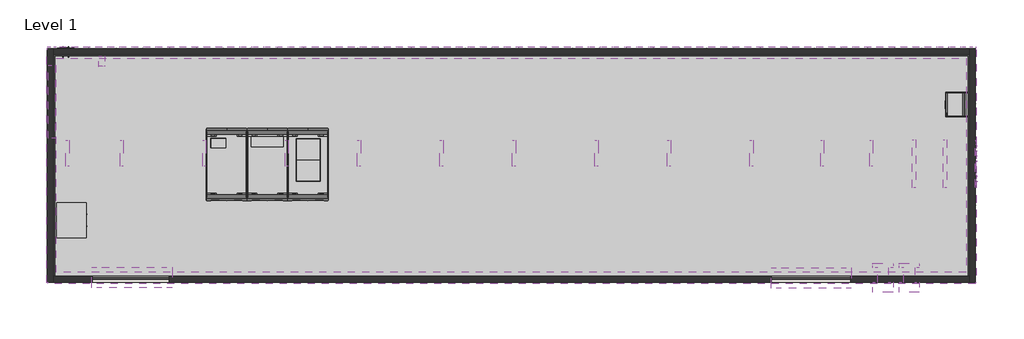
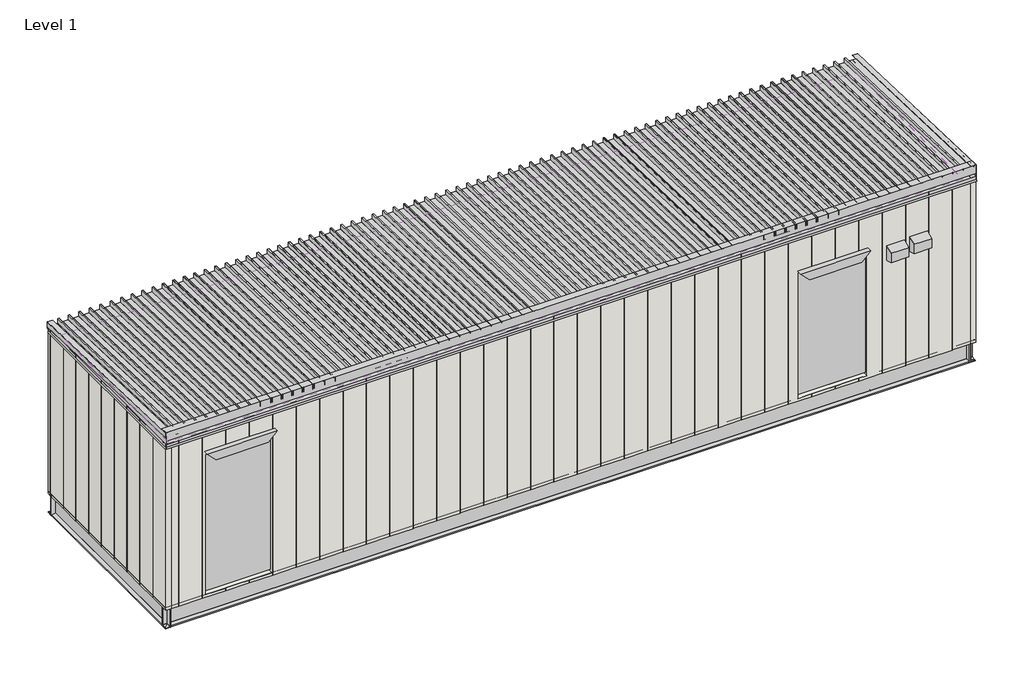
# One storey, incomplete: 32 beams, 14 cable carrier fittings, 14 proxies, 5 walls, 1 covering.
"""IFC4 building model written with IfcOpenShell, lengths in millimetres."""

from ifc_helpers import new_model, si_unit, frame, origin, place, context, project, spatial, polyline, outline, extrude, transform, mapped, element, save
from components import beam_685e67e5, c381x94_16dd5fd5, c381x94_299a31d8, c381x96_93085bd0, c381x96_86510107, c381x96_7eebbe73, foot_stand_and_door_shade_foot_stand_and_door_shade_9e24d134, foot_stand_and_door_shade_foot_stand_and_door_shade_7551d113, i_channel_153x157_1de0439f, i_channel_2c100x6_7_d020ab85, i_channel_2c100x6_7_32814a7a, roof_100kw_roof_100kw_a95ad8ea, roof_100kw_roof_100kw_570b7f92, roof_100kw_roof_100kw_ccd04ebd, electrical_equipment_4dcd70bd, electrical_equipment_6561f704, electrical_equipment_92dd933f, electrical_equipment_2ad6ca1a, electrical_equipment_35aad652, electrical_equipment_d7194751, electrical_equipment_63daee8f, electrical_equipment_b056a7a1, proxy_120v_outlet_120v_outlet_1100b777, base_cover_base_cover_3083e37a, climate_control_climate_control_6d8de276, type_1_617d67d4, hanger_cabletray_hanger_cabletray_bdf1d66f, hanger_cabletray1_hanger_cabletray_2_1b30f011, walls_2_walls_2_f0e25747, walls_3_walls_2_d2d95a10, walls_4_walls_2_c5f77fe5, walls_7_walls_2_cd0bb462

model = new_model("IFC4")

# Units and contexts
model_context = context("Model", 3, world=origin())
ifc_project = project(units=[si_unit("LENGTHUNIT", "METRE", prefix="MILLI")], contexts=[model_context])

# Site, building, storey
site = spatial("IfcSite", under=ifc_project)
building = spatial("IfcBuilding", under=site)
storey = spatial("IfcBuildingStorey", under=building, Name="Level 1", Elevation=0.0)

# Beams
placement = place(None, origin())
beam_shape = beam_685e67e5(model_context)
element("IfcBeam", 1, ObjectType="Inside Insulation config-5 : Inside Insulation config-5", at=placement, inside=storey, context=model_context, shape_type="MappedRepresentation", body=[
    mapped(beam_shape, transform((5653.6195207, 465.3217856, 0.0), x_axis=(1.0, 0.0, 0.0), y_axis=(0.0, 1.0, 0.0), z_axis=(0.0, 0.0, 1.0))),
])
c381x94_shape = c381x94_16dd5fd5(model_context)
element("IfcBeam", 2, ObjectType="M_C-Channel_305x105 : C381x94", at=placement, inside=storey, context=model_context, shape_type="MappedRepresentation", body=[
    mapped(c381x94_shape, transform((14806.9716396, 3824.2548204, 190.5), x_axis=(-1.0, 0.0, 0.0), y_axis=(0.0, -1.0, 0.0), z_axis=(0.0, 0.0, 1.0))),
])
c381x94_2_shape = c381x94_299a31d8(model_context)
element("IfcBeam", 3, ObjectType="M_C-Channel_305x105 : C381x94", at=placement, inside=storey, context=model_context, shape_type="MappedRepresentation", body=[
    mapped(c381x94_2_shape, transform((14806.9716396, 548.7448234, 190.5), x_axis=(-1.0, 0.0, 0.0), y_axis=(0.0, -1.0, 0.0), z_axis=(0.0, 0.0, 1.0))),
])
c381x96_shape = c381x96_93085bd0(model_context)
element("IfcBeam", 4, ObjectType="M_C-Channel_305x105 : C381x96", at=placement, inside=storey, context=model_context, shape_type="MappedRepresentation", body=[
    mapped(c381x96_shape, transform((6084.5986421, 3985.046086, 190.5), x_axis=(0.0, -1.0, 0.0), y_axis=(1.0, 0.0, 0.0), z_axis=(0.0, 0.0, 1.0))),
])
c381x96_2_shape = c381x96_86510107(model_context)
element("IfcBeam", 5, ObjectType="M_C-Channel_305x105 : C381x96", at=placement, inside=storey, context=model_context, shape_type="MappedRepresentation", body=[
    mapped(c381x96_2_shape, transform((19638.610639, 3985.046086, 190.5), x_axis=(0.0, -1.0, 0.0), y_axis=(1.0, 0.0, 0.0), z_axis=(0.0, 0.0, 1.0))),
])
c381x96_3_shape = c381x96_7eebbe73(model_context)
element("IfcBeam", 6, ObjectType="M_C-Channel_305x105 : C381x96", at=placement, inside=storey, context=model_context, shape_type="MappedRepresentation", body=[
    mapped(c381x96_3_shape, transform((7732.608639, 3985.046086, 190.5), x_axis=(0.0, -1.0, 0.0), y_axis=(1.0, 0.0, 0.0), z_axis=(0.0, 0.0, 1.0))),
])
element("IfcBeam", 7, ObjectType="M_C-Channel_305x105 : C381x96", at=placement, inside=storey, context=model_context, shape_type="MappedRepresentation", body=[
    mapped(c381x96_3_shape, transform((12832.608639, 3985.046086, 190.5), x_axis=(0.0, -1.0, 0.0), y_axis=(1.0, 0.0, 0.0), z_axis=(0.0, 0.0, 1.0))),
])
element("IfcBeam", 8, ObjectType="M_C-Channel_305x105 : C381x96", at=placement, inside=storey, context=model_context, shape_type="MappedRepresentation", body=[
    mapped(c381x96_3_shape, transform((17932.608639, 3985.046086, 190.5), x_axis=(0.0, -1.0, 0.0), y_axis=(1.0, 0.0, 0.0), z_axis=(0.0, 0.0, 1.0))),
])
foot_stand_and_door_shade_foot_stand_and_door_shade_shape = foot_stand_and_door_shade_foot_stand_and_door_shade_9e24d134(model_context)
element("IfcBeam", 9, ObjectType="Foot Stand and Door shade : Foot Stand and Door shade", at=placement, inside=storey, context=model_context, shape_type="MappedRepresentation", body=[
    mapped(foot_stand_and_door_shade_foot_stand_and_door_shade_shape, transform((6600.901081, 120.8846345, 0.0), x_axis=(1.0, 0.0, 0.0), y_axis=(0.0, 1.0, 0.0), z_axis=(0.0, 0.0, 1.0))),
])
foot_stand_and_door_shade_foot_stand_and_door_shade_2_shape = foot_stand_and_door_shade_foot_stand_and_door_shade_7551d113(model_context)
element("IfcBeam", 10, ObjectType="Foot Stand and Door shade : Foot Stand and Door shade", at=placement, inside=storey, context=model_context, shape_type="MappedRepresentation", body=[
    mapped(foot_stand_and_door_shade_foot_stand_and_door_shade_2_shape, transform((16642.4999477, 110.8846345, -17.5), x_axis=(1.0, 0.0, 0.0), y_axis=(0.0, 1.0, 0.0), z_axis=(0.0, 0.0, 1.0))),
])
i_channel_153x157_shape = i_channel_153x157_1de0439f(model_context)
element("IfcBeam", 11, ObjectType="I Channel : 153x157", at=placement, inside=storey, context=model_context, shape_type="MappedRepresentation", body=[
    mapped(i_channel_153x157_shape, transform((9239.0399071, 2184.3638219, 202.5), x_axis=(1.0, 0.0, 0.0), y_axis=(0.0, 1.0, 0.0), z_axis=(0.0, 0.0, 1.0))),
])
i_channel_2c100x6_7_shape = i_channel_2c100x6_7_d020ab85(model_context)
element("IfcBeam", 12, ObjectType="I Channel : 2C100X6.7", at=placement, inside=storey, context=model_context, shape_type="MappedRepresentation", body=[
    mapped(i_channel_2c100x6_7_shape, transform((8362.9196405, 3129.3607292, 332.5), x_axis=(0.0, -1.0, 0.0), y_axis=(1.0, 0.0, 0.0), z_axis=(0.0, 0.0, 1.0))),
])
element("IfcBeam", 13, ObjectType="I Channel : 2C100X6.7", at=placement, inside=storey, context=model_context, shape_type="MappedRepresentation", body=[
    mapped(i_channel_2c100x6_7_shape, transform((6549.7176405, 3129.3607292, 332.5), x_axis=(0.0, -1.0, 0.0), y_axis=(1.0, 0.0, 0.0), z_axis=(0.0, 0.0, 1.0))),
])
i_channel_2c100x6_7_2_shape = i_channel_2c100x6_7_32814a7a(model_context)
element("IfcBeam", 14, ObjectType="I Channel : 2C100X6.7", at=placement, inside=storey, context=model_context, shape_type="MappedRepresentation", body=[
    mapped(i_channel_2c100x6_7_2_shape, transform((19162.9196405, 3123.0107292, 332.5), x_axis=(0.0, -1.0, 0.0), y_axis=(1.0, 0.0, 0.0), z_axis=(0.0, 0.0, 1.0))),
])
element("IfcBeam", 15, ObjectType="I Channel : 2C100X6.7", at=placement, inside=storey, context=model_context, shape_type="MappedRepresentation", body=[
    mapped(i_channel_2c100x6_7_2_shape, transform((18562.9196405, 3123.0107292, 332.5), x_axis=(0.0, -1.0, 0.0), y_axis=(1.0, 0.0, 0.0), z_axis=(0.0, 0.0, 1.0))),
])
element("IfcBeam", 16, ObjectType="I Channel : 2C100X6.7", at=placement, inside=storey, context=model_context, shape_type="MappedRepresentation", body=[
    mapped(i_channel_2c100x6_7_2_shape, transform((17362.9196405, 3123.0107292, 332.5), x_axis=(0.0, -1.0, 0.0), y_axis=(1.0, 0.0, 0.0), z_axis=(0.0, 0.0, 1.0))),
])
element("IfcBeam", 17, ObjectType="I Channel : 2C100X6.7", at=placement, inside=storey, context=model_context, shape_type="MappedRepresentation", body=[
    mapped(i_channel_2c100x6_7_2_shape, transform((16762.9196405, 3123.0107292, 332.5), x_axis=(0.0, -1.0, 0.0), y_axis=(1.0, 0.0, 0.0), z_axis=(0.0, 0.0, 1.0))),
])
element("IfcBeam", 18, ObjectType="I Channel : 2C100X6.7", at=placement, inside=storey, context=model_context, shape_type="MappedRepresentation", body=[
    mapped(i_channel_2c100x6_7_2_shape, transform((16162.9196405, 3123.0107292, 332.5), x_axis=(0.0, -1.0, 0.0), y_axis=(1.0, 0.0, 0.0), z_axis=(0.0, 0.0, 1.0))),
])
element("IfcBeam", 19, ObjectType="I Channel : 2C100X6.7", at=placement, inside=storey, context=model_context, shape_type="MappedRepresentation", body=[
    mapped(i_channel_2c100x6_7_2_shape, transform((15562.9196405, 3123.0107292, 332.5), x_axis=(0.0, -1.0, 0.0), y_axis=(1.0, 0.0, 0.0), z_axis=(0.0, 0.0, 1.0))),
])
element("IfcBeam", 20, ObjectType="I Channel : 2C100X6.7", at=placement, inside=storey, context=model_context, shape_type="MappedRepresentation", body=[
    mapped(i_channel_2c100x6_7_2_shape, transform((14962.9196405, 3123.0107292, 332.5), x_axis=(0.0, -1.0, 0.0), y_axis=(1.0, 0.0, 0.0), z_axis=(0.0, 0.0, 1.0))),
])
element("IfcBeam", 21, ObjectType="I Channel : 2C100X6.7", at=placement, inside=storey, context=model_context, shape_type="MappedRepresentation", body=[
    mapped(i_channel_2c100x6_7_2_shape, transform((14362.9196405, 3123.0107292, 332.5), x_axis=(0.0, -1.0, 0.0), y_axis=(1.0, 0.0, 0.0), z_axis=(0.0, 0.0, 1.0))),
])
element("IfcBeam", 22, ObjectType="I Channel : 2C100X6.7", at=placement, inside=storey, context=model_context, shape_type="MappedRepresentation", body=[
    mapped(i_channel_2c100x6_7_2_shape, transform((13762.9196405, 3123.0107292, 332.5), x_axis=(0.0, -1.0, 0.0), y_axis=(1.0, 0.0, 0.0), z_axis=(0.0, 0.0, 1.0))),
])
element("IfcBeam", 23, ObjectType="I Channel : 2C100X6.7", at=placement, inside=storey, context=model_context, shape_type="MappedRepresentation", body=[
    mapped(i_channel_2c100x6_7_2_shape, transform((13162.9196405, 3123.0107292, 332.5), x_axis=(0.0, -1.0, 0.0), y_axis=(1.0, 0.0, 0.0), z_axis=(0.0, 0.0, 1.0))),
])
element("IfcBeam", 24, ObjectType="I Channel : 2C100X6.7", at=placement, inside=storey, context=model_context, shape_type="MappedRepresentation", body=[
    mapped(i_channel_2c100x6_7_2_shape, transform((12562.9196405, 3123.0107292, 332.5), x_axis=(0.0, -1.0, 0.0), y_axis=(1.0, 0.0, 0.0), z_axis=(0.0, 0.0, 1.0))),
])
element("IfcBeam", 25, ObjectType="I Channel : 2C100X6.7", at=placement, inside=storey, context=model_context, shape_type="MappedRepresentation", body=[
    mapped(i_channel_2c100x6_7_2_shape, transform((11962.9196405, 3123.0107292, 332.5), x_axis=(0.0, -1.0, 0.0), y_axis=(1.0, 0.0, 0.0), z_axis=(0.0, 0.0, 1.0))),
])
element("IfcBeam", 26, ObjectType="I Channel : 2C100X6.7", at=placement, inside=storey, context=model_context, shape_type="MappedRepresentation", body=[
    mapped(i_channel_2c100x6_7_2_shape, transform((11362.9196405, 3123.0107292, 332.5), x_axis=(0.0, -1.0, 0.0), y_axis=(1.0, 0.0, 0.0), z_axis=(0.0, 0.0, 1.0))),
])
element("IfcBeam", 27, ObjectType="I Channel : 2C100X6.7", at=placement, inside=storey, context=model_context, shape_type="MappedRepresentation", body=[
    mapped(i_channel_2c100x6_7_2_shape, transform((10762.9196405, 3123.0107292, 332.5), x_axis=(0.0, -1.0, 0.0), y_axis=(1.0, 0.0, 0.0), z_axis=(0.0, 0.0, 1.0))),
])
element("IfcBeam", 28, ObjectType="I Channel : 2C100X6.7", at=placement, inside=storey, context=model_context, shape_type="MappedRepresentation", body=[
    mapped(i_channel_2c100x6_7_2_shape, transform((10162.9196405, 3123.0107292, 332.5), x_axis=(0.0, -1.0, 0.0), y_axis=(1.0, 0.0, 0.0), z_axis=(0.0, 0.0, 1.0))),
])
element("IfcBeam", 29, ObjectType="I Channel : 2C100X6.7", at=placement, inside=storey, context=model_context, shape_type="MappedRepresentation", body=[
    mapped(i_channel_2c100x6_7_2_shape, transform((9562.9196405, 3123.0107292, 332.5), x_axis=(0.0, -1.0, 0.0), y_axis=(1.0, 0.0, 0.0), z_axis=(0.0, 0.0, 1.0))),
])
element("IfcBeam", 30, ObjectType="I Channel : 2C100X6.7", at=placement, inside=storey, context=model_context, shape_type="MappedRepresentation", body=[
    mapped(i_channel_2c100x6_7_2_shape, transform((8962.9196405, 3123.0107292, 332.5), x_axis=(0.0, -1.0, 0.0), y_axis=(1.0, 0.0, 0.0), z_axis=(0.0, 0.0, 1.0))),
])
element("IfcBeam", 31, ObjectType="I Channel : 2C100X6.7", at=placement, inside=storey, context=model_context, shape_type="MappedRepresentation", body=[
    mapped(i_channel_2c100x6_7_2_shape, transform((7149.7176405, 3123.0107292, 332.5), x_axis=(0.0, -1.0, 0.0), y_axis=(1.0, 0.0, 0.0), z_axis=(0.0, 0.0, 1.0))),
])
roof_100kw_roof_100kw_shape = roof_100kw_roof_100kw_a95ad8ea(model_context)
roof_100kw_roof_100kw_2_shape = roof_100kw_roof_100kw_570b7f92(model_context)
roof_100kw_roof_100kw_3_shape = roof_100kw_roof_100kw_ccd04ebd(model_context)
element("IfcBeam", 32, ObjectType="Roof_100kW : Roof_100kW", at=placement, inside=storey, context=model_context, shape_type="MappedRepresentation", body=[
    mapped(roof_100kw_roof_100kw_shape, transform((12866.921139, 462.8998207, 0.0), x_axis=(1.0, 0.0, 0.0), y_axis=(0.0, 1.0, 0.0), z_axis=(0.0, 0.0, 1.0))),
    mapped(roof_100kw_roof_100kw_2_shape, transform((12866.921139, 462.8998207, 0.0), x_axis=(1.0, 0.0, 0.0), y_axis=(0.0, 1.0, 0.0), z_axis=(0.0, 0.0, 1.0))),
    mapped(roof_100kw_roof_100kw_3_shape, transform((12866.921139, 462.8998207, 0.0), x_axis=(1.0, 0.0, 0.0), y_axis=(0.0, 1.0, 0.0), z_axis=(0.0, 0.0, 1.0))),
])

# Proxies
electrical_equipment_shape = electrical_equipment_4dcd70bd(model_context)
element("IfcBuildingElementProxy", 33, Name="Distribution_Sockets_2 : Distribution_Sockets_2", ObjectType="Distribution_Sockets_2 : Distribution_Sockets_2", at=placement, inside=storey, context=model_context, shape_type="MappedRepresentation", body=[
    mapped(electrical_equipment_shape, transform((19663.9536405, 2166.5913057, 3010.0080032), x_axis=(1.0, 0.0, 0.0), y_axis=(0.0, 1.0, 0.0), z_axis=(0.0, 0.0, 1.0))),
])
electrical_equipment_2_shape = electrical_equipment_6561f704(model_context)
electrical_equipment_3_shape = electrical_equipment_92dd933f(model_context)
electrical_equipment_4_shape = electrical_equipment_2ad6ca1a(model_context)
element("IfcBuildingElementProxy", 34, Name="TRF2 - 480V-208Vor 120V_ Step_down_transformer_BIM_Model : TRF2 - 480V-208Vor 120V_ Step_down_transformer_BIM_Model", ObjectType="TRF2 - 480V-208Vor 120V_ Step_down_transformer_BIM_Model : TRF2 - 480V-208Vor 120V_ Step_down_transformer_BIM_Model", at=placement, inside=storey, context=model_context, shape_type="MappedRepresentation", body=[
    mapped(electrical_equipment_2_shape, transform((6361.8224209, 1365.7230792, 384.1500006), x_axis=(0.0, 1.0, 0.0), y_axis=(-1.0, 0.0, 0.0), z_axis=(0.0, 0.0, 1.0))),
    mapped(electrical_equipment_3_shape, transform((6361.8224209, 1365.7230792, 384.1500006), x_axis=(0.0, 1.0, 0.0), y_axis=(-1.0, 0.0, 0.0), z_axis=(0.0, 0.0, 1.0))),
    mapped(electrical_equipment_4_shape, transform((6361.8224209, 1365.7230792, 384.1500006), x_axis=(0.0, 1.0, 0.0), y_axis=(-1.0, 0.0, 0.0), z_axis=(0.0, 0.0, 1.0))),
])
electrical_equipment_5_shape = electrical_equipment_35aad652(model_context)
element("IfcBuildingElementProxy", 35, Name="Distribution_Socket_Single_rotated : Distribution_Socket_Single_rotated", ObjectType="Distribution_Socket_Single_rotated : Distribution_Socket_Single_rotated", at=placement, inside=storey, context=model_context, shape_type="MappedRepresentation", body=[
    mapped(electrical_equipment_5_shape, transform((6277.2181267, 3854.838235, 1291.0119111), x_axis=(1.0, 0.0, 0.0), y_axis=(0.0, 1.0, 0.0), z_axis=(0.0, 0.0, 1.0))),
])
element("IfcBuildingElementProxy", 36, Name="Distribution_Socket_Single_rotated : Distribution_Socket_Single_rotated", ObjectType="Distribution_Socket_Single_rotated : Distribution_Socket_Single_rotated", at=placement, inside=storey, context=model_context, shape_type="MappedRepresentation", body=[
    mapped(electrical_equipment_5_shape, transform((6277.2181267, 3854.838235, 1041.5044755), x_axis=(1.0, 0.0, 0.0), y_axis=(0.0, 1.0, 0.0), z_axis=(0.0, 0.0, 1.0))),
])
element("IfcBuildingElementProxy", 37, Name="Distribution_Socket_Single_rotated : Distribution_Socket_Single_rotated", ObjectType="Distribution_Socket_Single_rotated : Distribution_Socket_Single_rotated", at=placement, inside=storey, context=model_context, shape_type="MappedRepresentation", body=[
    mapped(electrical_equipment_5_shape, transform((6277.2181267, 3854.838235, 790.7156565), x_axis=(1.0, 0.0, 0.0), y_axis=(0.0, 1.0, 0.0), z_axis=(0.0, 0.0, 1.0))),
])
element("IfcBuildingElementProxy", 38, Name="Distribution_Socket_Single_rotated : Distribution_Socket_Single_rotated", ObjectType="Distribution_Socket_Single_rotated : Distribution_Socket_Single_rotated", at=placement, inside=storey, context=model_context, shape_type="MappedRepresentation", body=[
    mapped(electrical_equipment_5_shape, transform((6277.2181267, 3854.838235, 541.120972), x_axis=(1.0, 0.0, 0.0), y_axis=(0.0, 1.0, 0.0), z_axis=(0.0, 0.0, 1.0))),
])
electrical_equipment_6_shape = electrical_equipment_d7194751(model_context)
element("IfcBuildingElementProxy", 39, Name="Symmetra_PX_Battery_96_100_160kW_Schneider_Electric_BIM_Model : SYCFXR9-9 - Symmetra PX Battery frame with 9 Battery Modules", ObjectType="Symmetra_PX_Battery_96_100_160kW_Schneider_Electric_BIM_Model : SYCFXR9-9 - Symmetra PX Battery frame with 9 Battery Modules", at=placement, inside=storey, context=model_context, shape_type="MappedRepresentation", body=[
    mapped(electrical_equipment_6_shape, transform((8656.3645516, 2188.9905067, 387.0), x_axis=(1.0, 0.0, 0.0), y_axis=(0.0, 1.0, 0.0), z_axis=(0.0, 0.0, 1.0))),
])
electrical_equipment_7_shape = electrical_equipment_63daee8f(model_context)
element("IfcBuildingElementProxy", 40, Name="Modular_PDU_100kW_600_480_208V_MBP_w_XFMR_Schneider_Electric_BIM_Model : PDPM100G6F-M 100kVA Modular Power Distribution Unit, Isolation Transformer, 480-208V, 72 Pole, MBP, 1 Subfeed", ObjectType="Modular_PDU_100kW_600_480_208V_MBP_w_XFMR_Schneider_Electric_BIM_Model : PDPM100G6F-M 100kVA Modular Power Distribution Unit, Isolation Transformer, 480-208V, 72 Pole, MBP, 1 Subfeed", at=placement, inside=storey, context=model_context, shape_type="MappedRepresentation", body=[
    mapped(electrical_equipment_7_shape, transform((9856.3645516, 2188.9905067, 387.0), x_axis=(1.0, 0.0, 0.0), y_axis=(0.0, 1.0, 0.0), z_axis=(0.0, 0.0, 1.0))),
])
electrical_equipment_8_shape = electrical_equipment_b056a7a1(model_context)
element("IfcBuildingElementProxy", 41, Name="UPS_Symmetra_PX_100_Schneider_Electric_100kVA_BIM_Model : SY100K100F", ObjectType="UPS_Symmetra_PX_100_Schneider_Electric_100kVA_BIM_Model : SY100K100F", at=placement, inside=storey, context=model_context, shape_type="MappedRepresentation", body=[
    mapped(electrical_equipment_8_shape, transform((9256.3645516, 2188.9905067, 387.0), x_axis=(1.0, 0.0, 0.0), y_axis=(0.0, 1.0, 0.0), z_axis=(0.0, 0.0, 1.0))),
])
proxy_120v_outlet_120v_outlet_shape = proxy_120v_outlet_120v_outlet_1100b777(model_context)
element("IfcBuildingElementProxy", 42, Name="120V Outlet : 120V Outlet", ObjectType="120V Outlet : 120V Outlet", at=placement, inside=storey, context=model_context, shape_type="MappedRepresentation", body=[
    mapped(proxy_120v_outlet_120v_outlet_shape, transform((6809.7176405, 3816.9110044, 4.9244391), x_axis=(-1.0, 0.0, 0.0), y_axis=(0.0, -1.0, 0.0), z_axis=(0.0, 0.0, 1.0))),
])
base_cover_base_cover_shape = base_cover_base_cover_3083e37a(model_context)
element("IfcBuildingElementProxy", 43, Name="Base_cover : Base_cover", ObjectType="Base_cover : Base_cover", at=placement, inside=storey, context=model_context, shape_type="MappedRepresentation", body=[
    mapped(base_cover_base_cover_shape, transform((12862.9896405, 2184.6358219, 0.0), x_axis=(1.0, 0.0, 0.0), y_axis=(0.0, 1.0, 0.0), z_axis=(0.0, 0.0, 1.0))),
])
climate_control_climate_control_shape = climate_control_climate_control_6d8de276(model_context)
element("IfcBuildingElementProxy", 44, Name="Climate Control : Climate Control", ObjectType="Climate Control : Climate Control", at=placement, inside=storey, context=model_context, shape_type="MappedRepresentation", body=[
    mapped(climate_control_climate_control_shape, transform((18894.8150458, 526.5092019, 2362.0), x_axis=(-1.0000000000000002, 0.0, 0.0), y_axis=(0.0, -1.0000000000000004, 0.0), z_axis=(0.0, 0.0, 1.0000000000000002))),
])
element("IfcBuildingElementProxy", 45, Name="Climate Control : Climate Control", ObjectType="Climate Control : Climate Control", at=placement, inside=storey, context=model_context, shape_type="MappedRepresentation", body=[
    mapped(climate_control_climate_control_shape, transform((18505.1304917, 526.5092019, 2336.5581161), x_axis=(-1.0000000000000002, 0.0, 0.0), y_axis=(0.0, -1.0000000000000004, 0.0), z_axis=(0.0, 0.0, 1.0000000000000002))),
])
type_1_shape = type_1_617d67d4(model_context)
element("IfcBuildingElementProxy", 46, Name="UE001 - Carel_Humidifier_Wallmount_BIM_Model : Type 1", ObjectType="UE001 - Carel_Humidifier_Wallmount_BIM_Model : Type 1", at=placement, inside=storey, context=model_context, shape_type="MappedRepresentation", body=[
    mapped(type_1_shape, transform((19635.4536405, 3076.7537241, 495.0), x_axis=(0.0, 1.0, 0.0), y_axis=(-1.0, 0.0, 0.0), z_axis=(0.0, 0.0, 1.0))),
])

# Cable carrier fittings
hanger_cabletray_hanger_cabletray_shape = hanger_cabletray_hanger_cabletray_bdf1d66f(model_context)
element("IfcCableCarrierFitting", 47, ObjectType="Hanger_CableTray : Hanger_CableTray", at=placement, inside=storey, context=model_context, shape_type="MappedRepresentation", body=[
    mapped(hanger_cabletray_hanger_cabletray_shape, transform((19272.920734, 2204.5328469, 2994.0), x_axis=(0.0, 1.0, 0.0), y_axis=(-1.0, 0.0, 0.0), z_axis=(0.0, 0.0, 1.0))),
])
element("IfcCableCarrierFitting", 48, ObjectType="Hanger_CableTray : Hanger_CableTray", at=placement, inside=storey, context=model_context, shape_type="MappedRepresentation", body=[
    mapped(hanger_cabletray_hanger_cabletray_shape, transform((18812.920734, 2204.5328469, 2994.0), x_axis=(0.0, 1.0, 0.0), y_axis=(-1.0, 0.0, 0.0), z_axis=(0.0, 0.0, 1.0))),
])
hanger_cabletray1_hanger_cabletray_2_shape = hanger_cabletray1_hanger_cabletray_2_1b30f011(model_context)
element("IfcCableCarrierFitting", 49, ObjectType="Hanger_CableTray1 : Hanger_CableTray 2", at=placement, inside=storey, context=model_context, shape_type="MappedRepresentation", body=[
    mapped(hanger_cabletray1_hanger_cabletray_2_shape, transform((6303.563234, 2521.5978676, 2854.0), x_axis=(0.0, 1.0, 0.0), y_axis=(-1.0, 0.0, 0.0), z_axis=(0.0, 0.0, 1.0))),
])
element("IfcCableCarrierFitting", 50, ObjectType="Hanger_CableTray1 : Hanger_CableTray 2", at=placement, inside=storey, context=model_context, shape_type="MappedRepresentation", body=[
    mapped(hanger_cabletray1_hanger_cabletray_2_shape, transform((7105.250734, 2521.5978676, 2854.0), x_axis=(0.0, 1.0, 0.0), y_axis=(-1.0, 0.0, 0.0), z_axis=(0.0, 0.0, 1.0))),
])
element("IfcCableCarrierFitting", 51, ObjectType="Hanger_CableTray1 : Hanger_CableTray 2", at=placement, inside=storey, context=model_context, shape_type="MappedRepresentation", body=[
    mapped(hanger_cabletray1_hanger_cabletray_2_shape, transform((8324.450734, 2521.5978676, 2854.0), x_axis=(0.0, 1.0, 0.0), y_axis=(-1.0, 0.0, 0.0), z_axis=(0.0, 0.0, 1.0))),
])
element("IfcCableCarrierFitting", 52, ObjectType="Hanger_CableTray1 : Hanger_CableTray 2", at=placement, inside=storey, context=model_context, shape_type="MappedRepresentation", body=[
    mapped(hanger_cabletray1_hanger_cabletray_2_shape, transform((9543.650734, 2521.5978676, 2854.0), x_axis=(0.0, 1.0, 0.0), y_axis=(-1.0, 0.0, 0.0), z_axis=(0.0, 0.0, 1.0))),
])
element("IfcCableCarrierFitting", 53, ObjectType="Hanger_CableTray1 : Hanger_CableTray 2", at=placement, inside=storey, context=model_context, shape_type="MappedRepresentation", body=[
    mapped(hanger_cabletray1_hanger_cabletray_2_shape, transform((10614.3507369, 2521.5978676, 2854.0), x_axis=(0.0, 1.0, 0.0), y_axis=(-1.0, 0.0, 0.0), z_axis=(0.0, 0.0, 1.0))),
])
element("IfcCableCarrierFitting", 54, ObjectType="Hanger_CableTray1 : Hanger_CableTray 2", at=placement, inside=storey, context=model_context, shape_type="MappedRepresentation", body=[
    mapped(hanger_cabletray1_hanger_cabletray_2_shape, transform((11833.5507369, 2521.5978676, 2854.0), x_axis=(0.0, 1.0, 0.0), y_axis=(-1.0, 0.0, 0.0), z_axis=(0.0, 0.0, 1.0))),
])
element("IfcCableCarrierFitting", 55, ObjectType="Hanger_CableTray1 : Hanger_CableTray 2", at=placement, inside=storey, context=model_context, shape_type="MappedRepresentation", body=[
    mapped(hanger_cabletray1_hanger_cabletray_2_shape, transform((12904.2507398, 2521.5978676, 2854.0), x_axis=(0.0, 1.0, 0.0), y_axis=(-1.0, 0.0, 0.0), z_axis=(0.0, 0.0, 1.0))),
])
element("IfcCableCarrierFitting", 56, ObjectType="Hanger_CableTray1 : Hanger_CableTray 2", at=placement, inside=storey, context=model_context, shape_type="MappedRepresentation", body=[
    mapped(hanger_cabletray1_hanger_cabletray_2_shape, transform((14123.4507398, 2521.5978676, 2854.0), x_axis=(0.0, 1.0, 0.0), y_axis=(-1.0, 0.0, 0.0), z_axis=(0.0, 0.0, 1.0))),
])
element("IfcCableCarrierFitting", 57, ObjectType="Hanger_CableTray1 : Hanger_CableTray 2", at=placement, inside=storey, context=model_context, shape_type="MappedRepresentation", body=[
    mapped(hanger_cabletray1_hanger_cabletray_2_shape, transform((15194.1507428, 2521.5978676, 2854.0), x_axis=(0.0, 1.0, 0.0), y_axis=(-1.0, 0.0, 0.0), z_axis=(0.0, 0.0, 1.0))),
])
element("IfcCableCarrierFitting", 58, ObjectType="Hanger_CableTray1 : Hanger_CableTray 2", at=placement, inside=storey, context=model_context, shape_type="MappedRepresentation", body=[
    mapped(hanger_cabletray1_hanger_cabletray_2_shape, transform((16413.3507428, 2521.5978676, 2854.0), x_axis=(0.0, 1.0, 0.0), y_axis=(-1.0, 0.0, 0.0), z_axis=(0.0, 0.0, 1.0))),
])
element("IfcCableCarrierFitting", 59, ObjectType="Hanger_CableTray1 : Hanger_CableTray 2", at=placement, inside=storey, context=model_context, shape_type="MappedRepresentation", body=[
    mapped(hanger_cabletray1_hanger_cabletray_2_shape, transform((17458.7507457, 2521.5978676, 2854.0), x_axis=(0.0, 1.0, 0.0), y_axis=(-1.0, 0.0, 0.0), z_axis=(0.0, 0.0, 1.0))),
])
element("IfcCableCarrierFitting", 60, ObjectType="Hanger_CableTray1 : Hanger_CableTray 2", at=placement, inside=storey, context=model_context, shape_type="MappedRepresentation", body=[
    mapped(hanger_cabletray1_hanger_cabletray_2_shape, transform((18182.9507457, 2521.5978676, 2854.0), x_axis=(0.0, 1.0, 0.0), y_axis=(-1.0, 0.0, 0.0), z_axis=(0.0, 0.0, 1.0))),
])

# Covering
element("IfcCovering", 61, ObjectType="GWB on Mtl Stud", at=placement, inside=storey, context=model_context, shape_type="SweptSolid", body=[
    extrude(outline(polyline([(19584.8800651, 3761.9110044), (19584.8800651, 597.8886371), (6139.793216, 597.8886371), (6139.793216, 3761.9110044), (19584.8800651, 3761.9110044)])), frame((0.0, 0.0, 3219.0), z_axis=(0.0, 0.0, 1.0), x_axis=(1.0, 0.0, 0.0)), (0.0, 0.0, 1.0), 107.95),
])

# Walls
element("IfcWall", 62, ObjectType="Generic - 200mm", at=placement, inside=storey, context=model_context, shape_type="SweptSolid", body=[
    extrude(outline(polyline([(6022.5094952, 2577.5202398), (6022.5094952, 3654.0972093), (6122.5094952, 3654.0972093), (6122.5094952, 2577.5202398), (6022.5094952, 2577.5202398)])), frame((0.0, 0.0, 2127.1940363), z_axis=(0.0, 0.0, 1.0), x_axis=(1.0, 0.0, 0.0)), (0.0, 0.0, 1.0), 249.815473),
])
walls_2_walls_2_shape = walls_2_walls_2_f0e25747(model_context)
element("IfcWall", 63, ObjectType="Walls 2 : Walls 2", at=placement, inside=storey, context=model_context, shape_type="MappedRepresentation", body=[
    mapped(walls_2_walls_2_shape, transform((0.0, 0.0, 0.0), x_axis=(1.0, 0.0, 0.0), y_axis=(0.0, 1.0, 0.0), z_axis=(0.0, 0.0, 1.0))),
])
walls_3_walls_2_shape = walls_3_walls_2_d2d95a10(model_context)
element("IfcWall", 64, ObjectType="Walls 3 : Walls 2", at=placement, inside=storey, context=model_context, shape_type="MappedRepresentation", body=[
    mapped(walls_3_walls_2_shape, transform((0.0, 0.0, 0.0), x_axis=(1.0, 0.0, 0.0), y_axis=(0.0, 1.0, 0.0), z_axis=(0.0, 0.0, 1.0))),
])
walls_4_walls_2_shape = walls_4_walls_2_c5f77fe5(model_context)
element("IfcWall", 65, ObjectType="Walls 4 : Walls 2", at=placement, inside=storey, context=model_context, shape_type="MappedRepresentation", body=[
    mapped(walls_4_walls_2_shape, transform((0.0, 0.0, 0.0), x_axis=(1.0, 0.0, 0.0), y_axis=(0.0, 1.0, 0.0), z_axis=(0.0, 0.0, 1.0))),
])
walls_7_walls_2_shape = walls_7_walls_2_cd0bb462(model_context)
element("IfcWall", 66, ObjectType="Walls 7 : Walls 2", at=placement, inside=storey, context=model_context, shape_type="MappedRepresentation", body=[
    mapped(walls_7_walls_2_shape, transform((0.0, 0.0, 0.0), x_axis=(1.0, 0.0, 0.0), y_axis=(0.0, 1.0, 0.0), z_axis=(0.0, 0.0, 1.0))),
])

save(model, "model.ifc")
